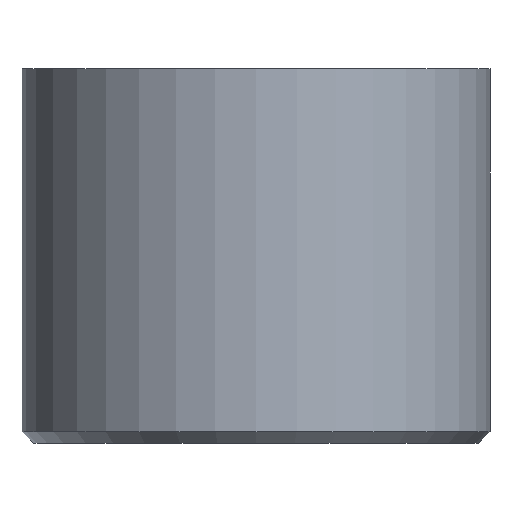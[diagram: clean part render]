
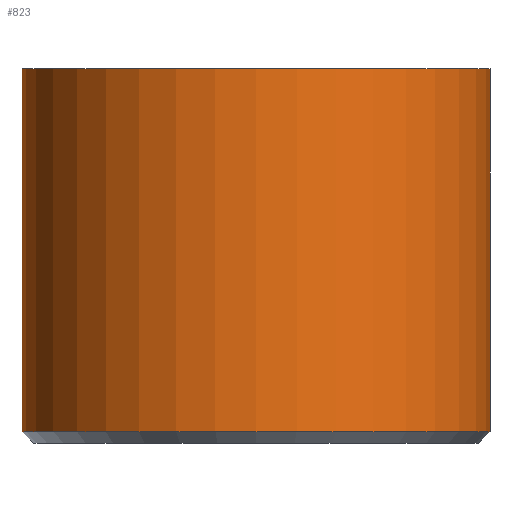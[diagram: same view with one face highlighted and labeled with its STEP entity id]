
A CAD part, front view. The second image highlights one B-rep face of the part: STEP entity #823.
In plain terms, the highlighted cylindrical face has radius 10 mm (diameter 20 mm), a partial arc.
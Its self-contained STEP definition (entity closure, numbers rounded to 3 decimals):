
#29 = CIRCLE ( 'NONE', #68, 10. ) ;
#68 = AXIS2_PLACEMENT_3D ( 'NONE', #216, #214, #209 ) ;
#88 = CYLINDRICAL_SURFACE ( 'NONE', #933, 10. ) ;
#175 = CARTESIAN_POINT ( 'NONE',  ( 10., 0., 0. ) ) ;
#209 = DIRECTION ( 'NONE',  ( 1., 0., 0. ) ) ;
#214 = DIRECTION ( 'NONE',  ( 0., 0., 1. ) ) ;
#216 = CARTESIAN_POINT ( 'NONE',  ( 0., 0., -15.5 ) ) ;
#240 = AXIS2_PLACEMENT_3D ( 'NONE', #1414, #258, #1989 ) ;
#258 = DIRECTION ( 'NONE',  ( 0., 0., 1. ) ) ;
#293 = VERTEX_POINT ( 'NONE', #888 ) ;
#306 = EDGE_CURVE ( 'NONE', #991, #982, #1000, .T. ) ;
#332 = DIRECTION ( 'NONE',  ( 0., 0., 1. ) ) ;
#461 = VERTEX_POINT ( 'NONE', #1864 ) ;
#534 = EDGE_CURVE ( 'NONE', #982, #293, #1791, .T. ) ;
#586 = DIRECTION ( 'NONE',  ( 1., 0., 0. ) ) ;
#598 = CARTESIAN_POINT ( 'NONE',  ( 0., 0., 0. ) ) ;
#685 = DIRECTION ( 'NONE',  ( 0., 0., 1. ) ) ;
#823 = ADVANCED_FACE ( 'NONE', ( #1831 ), #88, .T. ) ;
#824 = DIRECTION ( 'NONE',  ( 0., 0., 1. ) ) ;
#852 = CARTESIAN_POINT ( 'NONE',  ( -10., 0., 0. ) ) ;
#862 = ORIENTED_EDGE ( 'NONE', *, *, #306, .F. ) ;
#888 = CARTESIAN_POINT ( 'NONE',  ( 10., 0., 0. ) ) ;
#933 = AXIS2_PLACEMENT_3D ( 'NONE', #598, #685, #586 ) ;
#982 = VERTEX_POINT ( 'NONE', #1712 ) ;
#991 = VERTEX_POINT ( 'NONE', #1686 ) ;
#1000 = LINE ( 'NONE', #852, #2007 ) ;
#1004 = VECTOR ( 'NONE', #332, 1000. ) ;
#1055 = LINE ( 'NONE', #175, #1004 ) ;
#1319 = ORIENTED_EDGE ( 'NONE', *, *, #1532, .T. ) ;
#1414 = CARTESIAN_POINT ( 'NONE',  ( 0., 0., 0. ) ) ;
#1490 = ORIENTED_EDGE ( 'NONE', *, *, #1892, .T. ) ;
#1532 = EDGE_CURVE ( 'NONE', #991, #461, #29, .T. ) ;
#1578 = ORIENTED_EDGE ( 'NONE', *, *, #534, .F. ) ;
#1686 = CARTESIAN_POINT ( 'NONE',  ( -10., 0., -15.5 ) ) ;
#1712 = CARTESIAN_POINT ( 'NONE',  ( -10., 0., 0. ) ) ;
#1791 = CIRCLE ( 'NONE', #240, 10. ) ;
#1831 = FACE_OUTER_BOUND ( 'NONE', #1883, .T. ) ;
#1864 = CARTESIAN_POINT ( 'NONE',  ( 10., 0., -15.5 ) ) ;
#1883 = EDGE_LOOP ( 'NONE', ( #862, #1319, #1490, #1578 ) ) ;
#1892 = EDGE_CURVE ( 'NONE', #461, #293, #1055, .T. ) ;
#1989 = DIRECTION ( 'NONE',  ( 1., 0., 0. ) ) ;
#2007 = VECTOR ( 'NONE', #824, 1000. ) ;
